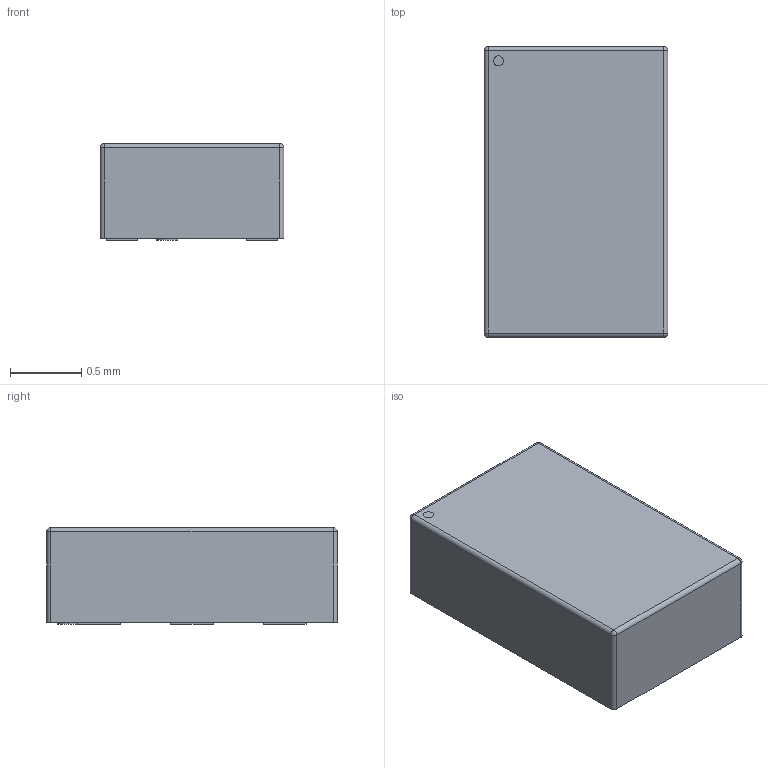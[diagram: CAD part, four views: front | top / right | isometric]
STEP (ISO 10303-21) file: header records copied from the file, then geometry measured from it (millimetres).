
FILE_DESCRIPTION (( 'STEP AP214' ), '1' );
FILE_NAME ('BD0826J50200AHF.STEP', '2025-05-28T04:24:40', ( '' ), ( '' ), 'SwSTEP 2.0', 'SolidWorks 2023', '' );
FILE_SCHEMA (( 'AUTOMOTIVE_DESIGN' ));
Length unit declared in the file: millimetre
Products named in the file (1): BD0826J50200AHF
Bounding box: 1.29 x 2.04 x 0.68 mm (x, y, z)
Volume: 1.8 mm3; surface area: 11.6 mm2
Topology: 9 solids, 9 shells, 95 faces, 202 edges, 128 vertices
Faces by surface type: plane 77, cylinder 14, sphere 4
Entity records: 3580 total; most frequent: CARTESIAN_POINT 422, DIRECTION 418, ORIENTED_EDGE 396, EDGE_CURVE 198, LINE 170, VECTOR 170, VERTEX_POINT 128, AXIS2_PLACEMENT_3D 124
